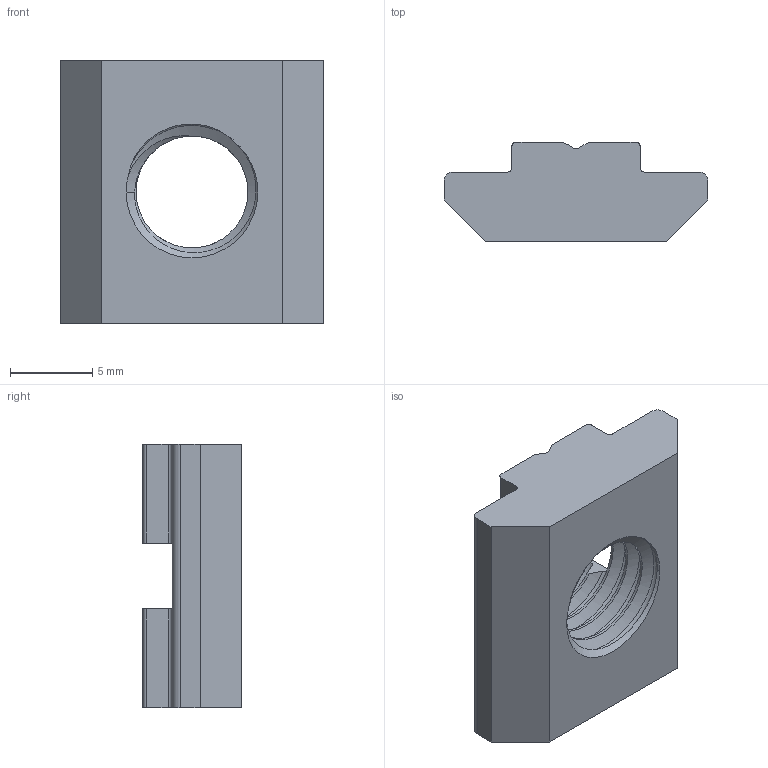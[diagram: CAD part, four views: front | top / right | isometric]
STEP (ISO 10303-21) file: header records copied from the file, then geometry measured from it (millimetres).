
FILE_DESCRIPTION (( 'STEP AP203' ), '1' );
FILE_NAME ('2111.008.004.STEP', '2023-05-24T05:11:05', ( '' ), ( '' ), 'SwSTEP 2.0', 'SolidWorks 2022', '' );
FILE_SCHEMA (( 'CONFIG_CONTROL_DESIGN' ));
Length unit declared in the file: millimetre
Products named in the file (1): 2111.008.004
Bounding box: 16 x 6 x 16 mm (x, y, z)
Volume: 917.6 mm3; surface area: 893.5 mm2
Topology: 1 solids, 1 shells, 64 faces, 189 edges, 126 vertices
Faces by surface type: plane 25, cylinder 20, bspline 13, cone 6
Entity records: 7885 total; most frequent: CARTESIAN_POINT 6290, ORIENTED_EDGE 378, DIRECTION 250, EDGE_CURVE 189, VERTEX_POINT 126, AXIS2_PLACEMENT_3D 84, LINE 82, VECTOR 82
